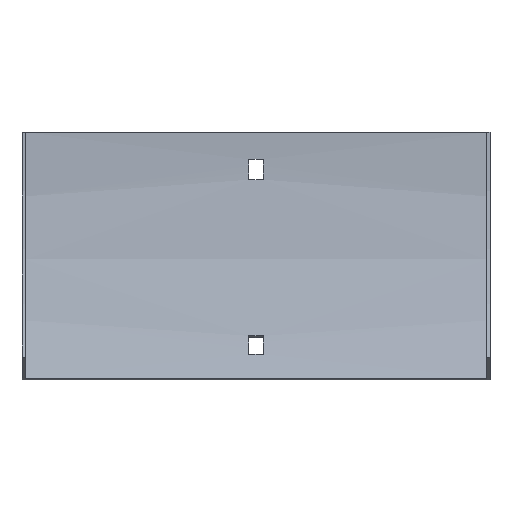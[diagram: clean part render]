
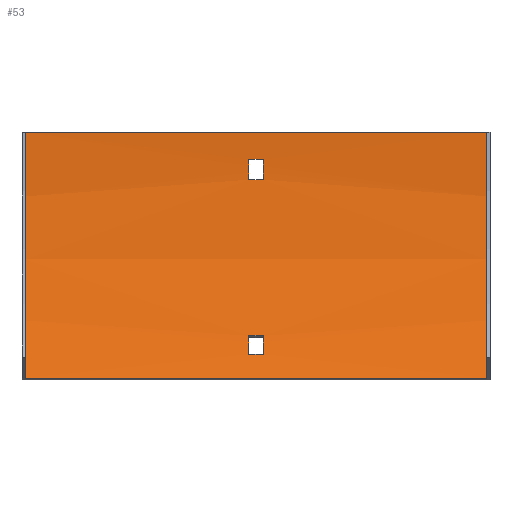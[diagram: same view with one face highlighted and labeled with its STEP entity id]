
A CAD part, front view. The second image highlights one B-rep face of the part: STEP entity #53.
In plain terms, the highlighted cylindrical face has radius 217.5 mm (diameter 435 mm), a partial arc.
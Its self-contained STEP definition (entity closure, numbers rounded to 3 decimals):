
#2 = EDGE_CURVE ( 'NONE', #288, #116, #526, .T. ) ;
#4 = CARTESIAN_POINT ( 'NONE',  ( -3.25, -219., 0. ) ) ;
#6 = DIRECTION ( 'NONE',  ( 0., 0., 1. ) ) ;
#9 = EDGE_CURVE ( 'NONE', #283, #559, #119, .T. ) ;
#10 = DIRECTION ( 'NONE',  ( -1., 0., 0. ) ) ;
#11 = CIRCLE ( 'NONE', #186, 217.5 ) ;
#20 = VECTOR ( 'NONE', #578, 1000. ) ;
#49 = VECTOR ( 'NONE', #63, 1000. ) ;
#52 = DIRECTION ( 'NONE',  ( 0., 0., 1. ) ) ;
#53 = ADVANCED_FACE ( 'NONE', ( #433, #99, #523 ), #427, .F. ) ;
#63 = DIRECTION ( 'NONE',  ( 1., 0., 0. ) ) ;
#64 = EDGE_CURVE ( 'NONE', #597, #449, #556, .T. ) ;
#69 = VECTOR ( 'NONE', #10, 1000. ) ;
#80 = EDGE_CURVE ( 'NONE', #522, #84, #11, .T. ) ;
#81 = EDGE_LOOP ( 'NONE', ( #366, #217, #336, #504 ) ) ;
#84 = VERTEX_POINT ( 'NONE', #435 ) ;
#86 = CARTESIAN_POINT ( 'NONE',  ( 3.25, -219., 0. ) ) ;
#89 = CARTESIAN_POINT ( 'NONE',  ( -102., -1.5, 0. ) ) ;
#90 = ORIENTED_EDGE ( 'NONE', *, *, #9, .T. ) ;
#96 = ORIENTED_EDGE ( 'NONE', *, *, #64, .F. ) ;
#99 = FACE_OUTER_BOUND ( 'NONE', #382, .T. ) ;
#103 = EDGE_LOOP ( 'NONE', ( #491, #179, #96, #137 ) ) ;
#106 = DIRECTION ( 'NONE',  ( 1., 0., 0. ) ) ;
#114 = EDGE_CURVE ( 'NONE', #449, #522, #337, .T. ) ;
#116 = VERTEX_POINT ( 'NONE', #298 ) ;
#119 = CIRCLE ( 'NONE', #476, 217.5 ) ;
#123 = CARTESIAN_POINT ( 'NONE',  ( 102., -1.5, 0. ) ) ;
#137 = ORIENTED_EDGE ( 'NONE', *, *, #218, .F. ) ;
#138 = CARTESIAN_POINT ( 'NONE',  ( -3.25, -21.02, -90.055 ) ) ;
#152 = CARTESIAN_POINT ( 'NONE',  ( -102., -219., 0. ) ) ;
#164 = VECTOR ( 'NONE', #475, 1000. ) ;
#166 = AXIS2_PLACEMENT_3D ( 'NONE', #297, #484, #199 ) ;
#168 = LINE ( 'NONE', #319, #49 ) ;
#174 = CARTESIAN_POINT ( 'NONE',  ( 3.25, -24.926, -98.192 ) ) ;
#179 = ORIENTED_EDGE ( 'NONE', *, *, #114, .F. ) ;
#186 = AXIS2_PLACEMENT_3D ( 'NONE', #4, #242, #6 ) ;
#199 = DIRECTION ( 'NONE',  ( 0., 0., -1. ) ) ;
#204 = AXIS2_PLACEMENT_3D ( 'NONE', #489, #291, #386 ) ;
#214 = CIRCLE ( 'NONE', #166, 217.5 ) ;
#217 = ORIENTED_EDGE ( 'NONE', *, *, #516, .T. ) ;
#218 = EDGE_CURVE ( 'NONE', #84, #597, #168, .T. ) ;
#226 = VECTOR ( 'NONE', #557, 1000. ) ;
#237 = DIRECTION ( 'NONE',  ( 0., 0., -1. ) ) ;
#239 = CIRCLE ( 'NONE', #268, 217.5 ) ;
#242 = DIRECTION ( 'NONE',  ( -1., 0., 0. ) ) ;
#245 = LINE ( 'NONE', #532, #69 ) ;
#268 = AXIS2_PLACEMENT_3D ( 'NONE', #86, #553, #461 ) ;
#283 = VERTEX_POINT ( 'NONE', #410 ) ;
#288 = VERTEX_POINT ( 'NONE', #138 ) ;
#291 = DIRECTION ( 'NONE',  ( -1., 0., 0. ) ) ;
#297 = CARTESIAN_POINT ( 'NONE',  ( -3.25, -219., 0. ) ) ;
#298 = CARTESIAN_POINT ( 'NONE',  ( 3.25, -21.02, -90.055 ) ) ;
#299 = DIRECTION ( 'NONE',  ( -1., 0., 0. ) ) ;
#303 = CARTESIAN_POINT ( 'NONE',  ( 102., -30.639, -108.75 ) ) ;
#311 = AXIS2_PLACEMENT_3D ( 'NONE', #152, #106, #344 ) ;
#316 = EDGE_CURVE ( 'NONE', #116, #548, #239, .T. ) ;
#319 = CARTESIAN_POINT ( 'NONE',  ( 103.5, -2.516, -21. ) ) ;
#326 = CARTESIAN_POINT ( 'NONE',  ( 3.25, -2.516, -21. ) ) ;
#335 = EDGE_CURVE ( 'NONE', #548, #567, #560, .T. ) ;
#336 = ORIENTED_EDGE ( 'NONE', *, *, #2, .T. ) ;
#337 = LINE ( 'NONE', #339, #20 ) ;
#338 = VERTEX_POINT ( 'NONE', #89 ) ;
#339 = CARTESIAN_POINT ( 'NONE',  ( 103.5, -1.831, -12. ) ) ;
#342 = LINE ( 'NONE', #303, #537 ) ;
#344 = DIRECTION ( 'NONE',  ( 0., 0., 1. ) ) ;
#346 = CARTESIAN_POINT ( 'NONE',  ( 3.25, -219., 0. ) ) ;
#366 = ORIENTED_EDGE ( 'NONE', *, *, #335, .T. ) ;
#382 = EDGE_LOOP ( 'NONE', ( #594, #515, #90, #422 ) ) ;
#383 = VERTEX_POINT ( 'NONE', #566 ) ;
#384 = DIRECTION ( 'NONE',  ( 1., 0., 0. ) ) ;
#386 = DIRECTION ( 'NONE',  ( 0., 0., 1. ) ) ;
#410 = CARTESIAN_POINT ( 'NONE',  ( 102., -30.639, -108.75 ) ) ;
#411 = CARTESIAN_POINT ( 'NONE',  ( -3.25, -1.831, -12. ) ) ;
#418 = CARTESIAN_POINT ( 'NONE',  ( -3.25, -24.926, -98.192 ) ) ;
#422 = ORIENTED_EDGE ( 'NONE', *, *, #488, .T. ) ;
#427 = CYLINDRICAL_SURFACE ( 'NONE', #204, 217.5 ) ;
#433 = FACE_BOUND ( 'NONE', #103, .T. ) ;
#434 = CARTESIAN_POINT ( 'NONE',  ( 3.25, -1.831, -12. ) ) ;
#435 = CARTESIAN_POINT ( 'NONE',  ( -3.25, -2.516, -21. ) ) ;
#449 = VERTEX_POINT ( 'NONE', #434 ) ;
#458 = CARTESIAN_POINT ( 'NONE',  ( 103.5, -24.926, -98.192 ) ) ;
#461 = DIRECTION ( 'NONE',  ( 0., 0., 1. ) ) ;
#474 = EDGE_CURVE ( 'NONE', #283, #383, #342, .T. ) ;
#475 = DIRECTION ( 'NONE',  ( 1., 0., 0. ) ) ;
#476 = AXIS2_PLACEMENT_3D ( 'NONE', #480, #562, #52 ) ;
#480 = CARTESIAN_POINT ( 'NONE',  ( 102., -219., 0. ) ) ;
#484 = DIRECTION ( 'NONE',  ( 1., 0., 0. ) ) ;
#488 = EDGE_CURVE ( 'NONE', #559, #338, #245, .T. ) ;
#489 = CARTESIAN_POINT ( 'NONE',  ( 103.5, -219., 0. ) ) ;
#491 = ORIENTED_EDGE ( 'NONE', *, *, #80, .F. ) ;
#504 = ORIENTED_EDGE ( 'NONE', *, *, #316, .T. ) ;
#512 = EDGE_CURVE ( 'NONE', #383, #338, #587, .T. ) ;
#515 = ORIENTED_EDGE ( 'NONE', *, *, #474, .F. ) ;
#516 = EDGE_CURVE ( 'NONE', #567, #288, #214, .T. ) ;
#522 = VERTEX_POINT ( 'NONE', #411 ) ;
#523 = FACE_BOUND ( 'NONE', #81, .T. ) ;
#526 = LINE ( 'NONE', #568, #164 ) ;
#532 = CARTESIAN_POINT ( 'NONE',  ( 102., -1.5, 0. ) ) ;
#537 = VECTOR ( 'NONE', #299, 1000. ) ;
#548 = VERTEX_POINT ( 'NONE', #174 ) ;
#553 = DIRECTION ( 'NONE',  ( -1., 0., 0. ) ) ;
#556 = CIRCLE ( 'NONE', #574, 217.5 ) ;
#557 = DIRECTION ( 'NONE',  ( -1., 0., 0. ) ) ;
#559 = VERTEX_POINT ( 'NONE', #123 ) ;
#560 = LINE ( 'NONE', #458, #226 ) ;
#562 = DIRECTION ( 'NONE',  ( 1., 0., 0. ) ) ;
#566 = CARTESIAN_POINT ( 'NONE',  ( -102., -30.639, -108.75 ) ) ;
#567 = VERTEX_POINT ( 'NONE', #418 ) ;
#568 = CARTESIAN_POINT ( 'NONE',  ( 103.5, -21.02, -90.055 ) ) ;
#574 = AXIS2_PLACEMENT_3D ( 'NONE', #346, #384, #237 ) ;
#578 = DIRECTION ( 'NONE',  ( -1., 0., 0. ) ) ;
#587 = CIRCLE ( 'NONE', #311, 217.5 ) ;
#594 = ORIENTED_EDGE ( 'NONE', *, *, #512, .F. ) ;
#597 = VERTEX_POINT ( 'NONE', #326 ) ;
